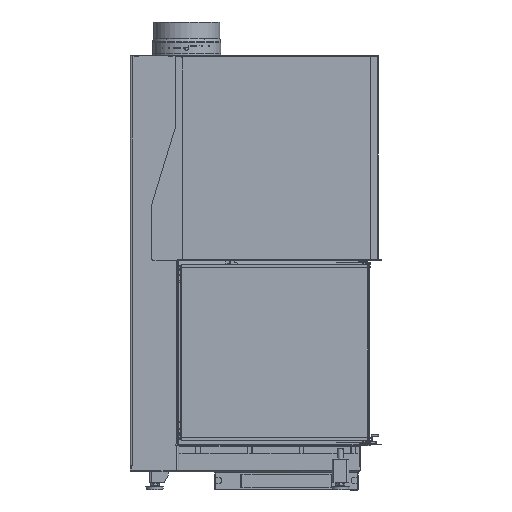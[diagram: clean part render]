
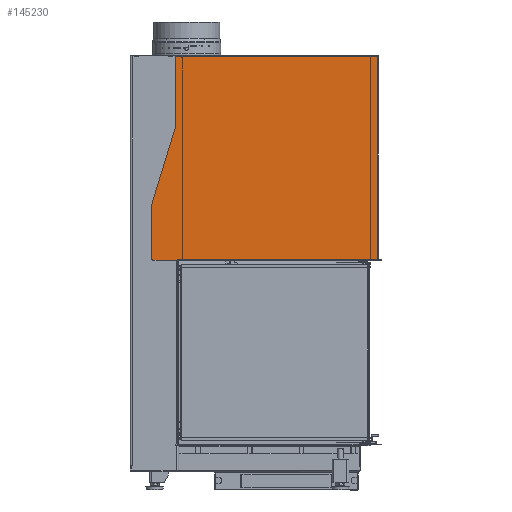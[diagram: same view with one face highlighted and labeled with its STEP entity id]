
A CAD part, left-side view. The second image highlights one B-rep face of the part: STEP entity #145230.
In plain terms, the highlighted planar face has unit normal (-1, 0, 0).
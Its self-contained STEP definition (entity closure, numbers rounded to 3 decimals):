
#9795=FACE_OUTER_BOUND('',#17678,.T.);
#17678=EDGE_LOOP('',(#114300,#114301,#114302,#114303,#114304,#114305,#114306,
#114307,#114308,#114309,#114310,#114311,#114312,#114313,#114314,#114315,
#114316,#114317,#114318));
#29444=LINE('',#237213,#43619);
#29445=LINE('',#237217,#43620);
#29446=LINE('',#237221,#43621);
#29447=LINE('',#237225,#43622);
#29448=LINE('',#237227,#43623);
#29449=LINE('',#237229,#43624);
#29450=LINE('',#237233,#43625);
#29451=LINE('',#237239,#43626);
#29452=LINE('',#237241,#43627);
#29453=LINE('',#237243,#43628);
#29454=LINE('',#237246,#43629);
#43619=VECTOR('',#186587,10.);
#43620=VECTOR('',#186590,10.);
#43621=VECTOR('',#186593,10.);
#43622=VECTOR('',#186596,10.);
#43623=VECTOR('',#186597,10.);
#43624=VECTOR('',#186598,10.);
#43625=VECTOR('',#186601,10.);
#43626=VECTOR('',#186606,10.);
#43627=VECTOR('',#186607,10.);
#43628=VECTOR('',#186608,10.);
#43629=VECTOR('',#186611,10.);
#52363=CIRCLE('',#156663,3.);
#52364=CIRCLE('',#156664,3.);
#52365=CIRCLE('',#156665,1.);
#52366=CIRCLE('',#156666,0.1);
#52367=CIRCLE('',#156667,3.);
#52368=CIRCLE('',#156668,3.);
#52369=CIRCLE('',#156669,0.1);
#52370=CIRCLE('',#156670,3.);
#62945=VERTEX_POINT('',#237209);
#62946=VERTEX_POINT('',#237210);
#62947=VERTEX_POINT('',#237212);
#62948=VERTEX_POINT('',#237214);
#62949=VERTEX_POINT('',#237216);
#62950=VERTEX_POINT('',#237218);
#62951=VERTEX_POINT('',#237220);
#62952=VERTEX_POINT('',#237222);
#62953=VERTEX_POINT('',#237224);
#62954=VERTEX_POINT('',#237226);
#62955=VERTEX_POINT('',#237228);
#62956=VERTEX_POINT('',#237230);
#62957=VERTEX_POINT('',#237232);
#62958=VERTEX_POINT('',#237234);
#62959=VERTEX_POINT('',#237236);
#62960=VERTEX_POINT('',#237238);
#62961=VERTEX_POINT('',#237240);
#62962=VERTEX_POINT('',#237242);
#62963=VERTEX_POINT('',#237244);
#80969=EDGE_CURVE('',#62945,#62946,#52363,.T.);
#80970=EDGE_CURVE('',#62945,#62947,#29444,.T.);
#80971=EDGE_CURVE('',#62948,#62947,#52364,.T.);
#80972=EDGE_CURVE('',#62949,#62948,#29445,.T.);
#80973=EDGE_CURVE('',#62950,#62949,#52365,.T.);
#80974=EDGE_CURVE('',#62950,#62951,#29446,.T.);
#80975=EDGE_CURVE('',#62951,#62952,#52366,.T.);
#80976=EDGE_CURVE('',#62952,#62953,#29447,.T.);
#80977=EDGE_CURVE('',#62953,#62954,#29448,.T.);
#80978=EDGE_CURVE('',#62954,#62955,#29449,.T.);
#80979=EDGE_CURVE('',#62956,#62955,#52367,.T.);
#80980=EDGE_CURVE('',#62957,#62956,#29450,.T.);
#80981=EDGE_CURVE('',#62958,#62957,#52368,.T.);
#80982=EDGE_CURVE('',#62958,#62959,#52369,.T.);
#80983=EDGE_CURVE('',#62959,#62960,#29451,.T.);
#80984=EDGE_CURVE('',#62961,#62960,#29452,.T.);
#80985=EDGE_CURVE('',#62962,#62961,#29453,.T.);
#80986=EDGE_CURVE('',#62963,#62962,#52370,.T.);
#80987=EDGE_CURVE('',#62963,#62946,#29454,.T.);
#114300=ORIENTED_EDGE('',*,*,#80969,.F.);
#114301=ORIENTED_EDGE('',*,*,#80970,.T.);
#114302=ORIENTED_EDGE('',*,*,#80971,.F.);
#114303=ORIENTED_EDGE('',*,*,#80972,.F.);
#114304=ORIENTED_EDGE('',*,*,#80973,.F.);
#114305=ORIENTED_EDGE('',*,*,#80974,.T.);
#114306=ORIENTED_EDGE('',*,*,#80975,.T.);
#114307=ORIENTED_EDGE('',*,*,#80976,.T.);
#114308=ORIENTED_EDGE('',*,*,#80977,.T.);
#114309=ORIENTED_EDGE('',*,*,#80978,.T.);
#114310=ORIENTED_EDGE('',*,*,#80979,.F.);
#114311=ORIENTED_EDGE('',*,*,#80980,.F.);
#114312=ORIENTED_EDGE('',*,*,#80981,.F.);
#114313=ORIENTED_EDGE('',*,*,#80982,.T.);
#114314=ORIENTED_EDGE('',*,*,#80983,.T.);
#114315=ORIENTED_EDGE('',*,*,#80984,.F.);
#114316=ORIENTED_EDGE('',*,*,#80985,.F.);
#114317=ORIENTED_EDGE('',*,*,#80986,.F.);
#114318=ORIENTED_EDGE('',*,*,#80987,.T.);
#135519=PLANE('',#156662);
#145230=ADVANCED_FACE('',(#9795),#135519,.T.);
#156662=AXIS2_PLACEMENT_3D('',#237208,#186583,#186584);
#156663=AXIS2_PLACEMENT_3D('',#237211,#186585,#186586);
#156664=AXIS2_PLACEMENT_3D('',#237215,#186588,#186589);
#156665=AXIS2_PLACEMENT_3D('',#237219,#186591,#186592);
#156666=AXIS2_PLACEMENT_3D('',#237223,#186594,#186595);
#156667=AXIS2_PLACEMENT_3D('',#237231,#186599,#186600);
#156668=AXIS2_PLACEMENT_3D('',#237235,#186602,#186603);
#156669=AXIS2_PLACEMENT_3D('',#237237,#186604,#186605);
#156670=AXIS2_PLACEMENT_3D('',#237245,#186609,#186610);
#186583=DIRECTION('center_axis',(-1.,0.,0.));
#186584=DIRECTION('ref_axis',(0.,-1.,0.));
#186585=DIRECTION('center_axis',(1.,0.,0.));
#186586=DIRECTION('ref_axis',(0.,0.989,0.148));
#186587=DIRECTION('',(0.,0.,-1.));
#186588=DIRECTION('center_axis',(1.,0.,0.));
#186589=DIRECTION('ref_axis',(0.,0.707,-0.707));
#186590=DIRECTION('',(0.,1.,0.));
#186591=DIRECTION('center_axis',(1.,0.,0.));
#186592=DIRECTION('ref_axis',(0.,-0.707,-0.707));
#186593=DIRECTION('',(0.,0.,1.));
#186594=DIRECTION('center_axis',(1.,0.,0.));
#186595=DIRECTION('ref_axis',(0.,-1.,0.));
#186596=DIRECTION('',(0.,0.,-1.));
#186597=DIRECTION('',(0.,-1.,0.));
#186598=DIRECTION('',(0.,0.,1.));
#186599=DIRECTION('center_axis',(1.,0.,0.));
#186600=DIRECTION('ref_axis',(0.,-0.707,0.707));
#186601=DIRECTION('',(0.,-1.,0.));
#186602=DIRECTION('center_axis',(1.,0.,0.));
#186603=DIRECTION('ref_axis',(0.,0.,
-1.));
#186604=DIRECTION('center_axis',(1.,0.,0.));
#186605=DIRECTION('ref_axis',(0.,1.,0.));
#186606=DIRECTION('',(0.,0.,1.));
#186607=DIRECTION('',(0.,-1.,0.));
#186608=DIRECTION('',(0.,0.,1.));
#186609=DIRECTION('center_axis',(-1.,0.,0.));
#186610=DIRECTION('ref_axis',(0.,-0.989,
-0.148));
#186611=DIRECTION('',(0.,0.292,-0.956));
#237208=CARTESIAN_POINT('Origin',(-270.,-93.496,989.941));
#237209=CARTESIAN_POINT('',(-270.,278.504,800.092));
#237210=CARTESIAN_POINT('',(-270.,278.373,800.969));
#237211=CARTESIAN_POINT('Origin',(-270.,275.504,800.092));
#237212=CARTESIAN_POINT('',(-270.,278.504,635.5));
#237213=CARTESIAN_POINT('',(-270.,278.504,1029.5));
#237214=CARTESIAN_POINT('',(-270.,275.504,632.5));
#237215=CARTESIAN_POINT('Origin',(-270.,275.504,635.5));
#237216=CARTESIAN_POINT('',(-270.,202.704,632.5));
#237217=CARTESIAN_POINT('',(-270.,-395.496,632.5));
#237218=CARTESIAN_POINT('',(-270.,201.704,633.5));
#237219=CARTESIAN_POINT('Origin',(-270.,202.704,633.5));
#237220=CARTESIAN_POINT('',(-270.,201.704,635.35));
#237221=CARTESIAN_POINT('',(-270.,201.704,812.646));
#237222=CARTESIAN_POINT('',(-270.,201.504,635.35));
#237223=CARTESIAN_POINT('Origin',(-270.,201.604,635.35));
#237224=CARTESIAN_POINT('',(-270.,201.504,635.25));
#237225=CARTESIAN_POINT('',(-270.,201.504,811.221));
#237226=CARTESIAN_POINT('',(-270.,-395.496,635.25));
#237227=CARTESIAN_POINT('',(-270.,-244.496,635.25));
#237228=CARTESIAN_POINT('',(-270.,-395.496,1239.25));
#237229=CARTESIAN_POINT('',(-270.,-395.496,632.5));
#237230=CARTESIAN_POINT('',(-270.,-392.496,1242.25));
#237231=CARTESIAN_POINT('Origin',(-270.,-392.496,1239.25));
#237232=CARTESIAN_POINT('',(-270.,-374.426,1242.25));
#237233=CARTESIAN_POINT('',(-270.,-93.496,1242.25));
#237234=CARTESIAN_POINT('',(-270.,-373.139,1241.96));
#237235=CARTESIAN_POINT('Origin',(-270.,-374.426,1239.25));
#237236=CARTESIAN_POINT('',(-270.,-372.996,1242.05));
#237237=CARTESIAN_POINT('Origin',(-270.,-373.096,1242.05));
#237238=CARTESIAN_POINT('',(-270.,-372.996,1242.25));
#237239=CARTESIAN_POINT('',(-270.,-372.996,1116.096));
#237240=CARTESIAN_POINT('',(-270.,208.504,1242.25));
#237241=CARTESIAN_POINT('',(-270.,-93.496,1242.25));
#237242=CARTESIAN_POINT('',(-270.,208.504,1029.948));
#237243=CARTESIAN_POINT('',(-270.,208.504,632.5));
#237244=CARTESIAN_POINT('',(-270.,208.635,1029.071));
#237245=CARTESIAN_POINT('Origin',(-270.,211.504,1029.948));
#237246=CARTESIAN_POINT('',(-270.,201.127,1053.63));
